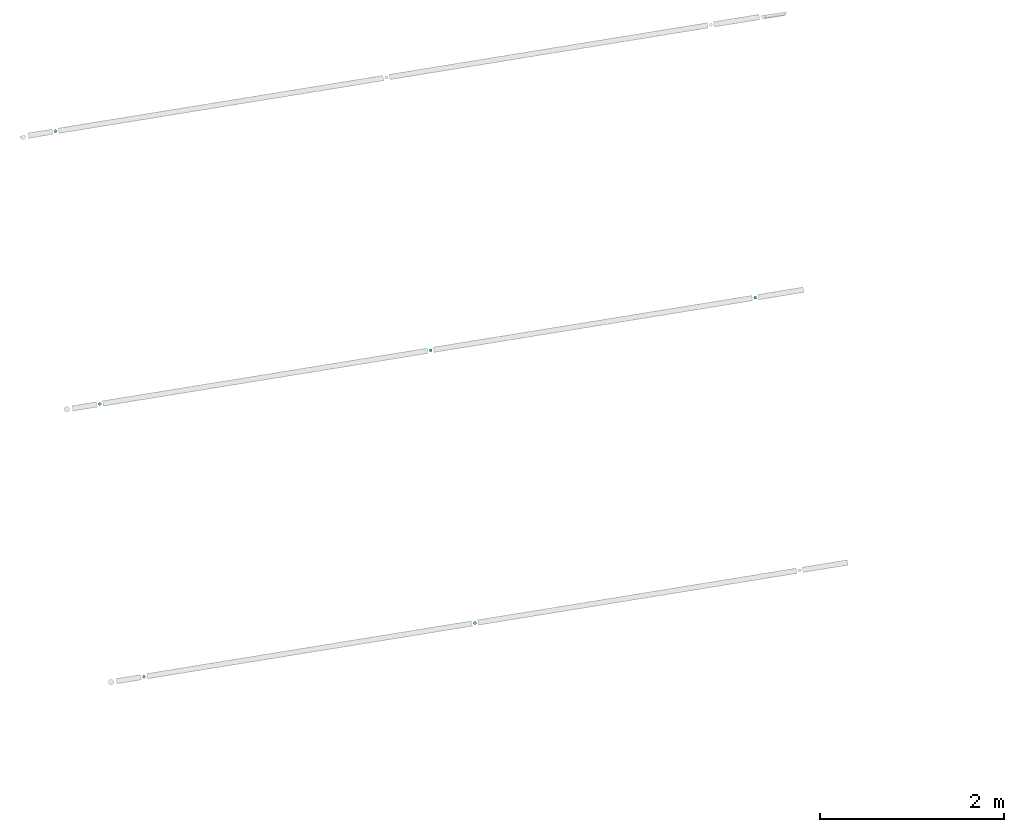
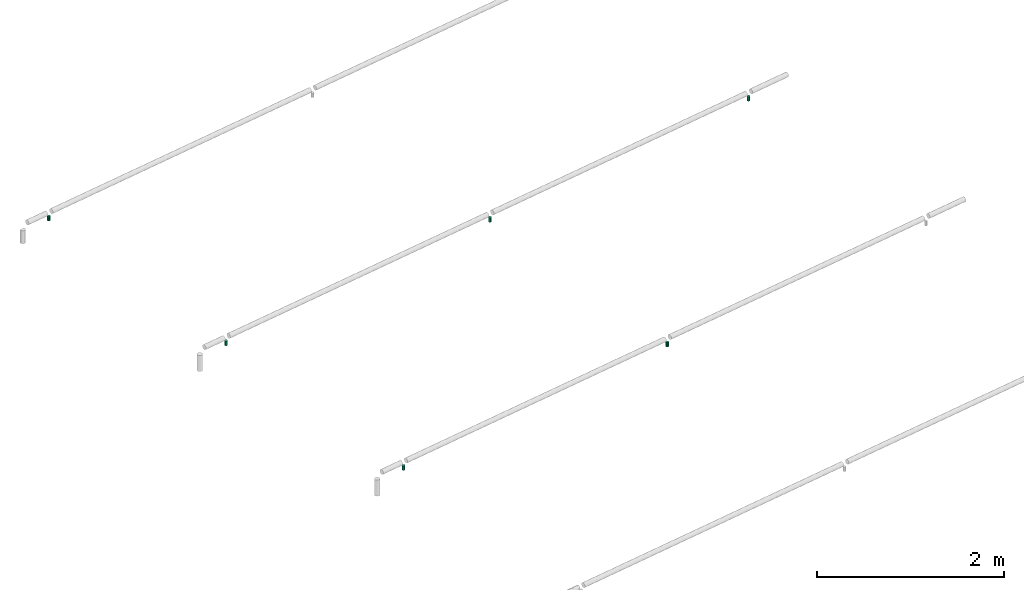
# One storey, part 7 of 10: 6 flow segments.
"""IFC2X3 building model written with IfcOpenShell, lengths in millimetres."""

from ifc_helpers import new_model, entity, si_unit, converted_unit, derived_unit, direction, frame, origin, origin_with_axes, origin_2d_with_axis, place, context, subcontext, project, spatial, circle, extrude, type_object, element, save


model = new_model("IFC2X3")

# Units and contexts
plan_context = context("Plan", 3, precision=1e-05, world=origin_with_axes())
model_context = context("Model", 3, precision=0.01, world=origin(), true_north=direction((6.12323399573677e-17, 1.0)))
body_context = subcontext(model_context, "Body", "Model", "MODEL_VIEW")
ifc_project = project(units=[converted_unit("PLANEANGLEUNIT", "DEGREE", entity("IfcPositiveLengthMeasure", 0.0174532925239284), si_unit("PLANEANGLEUNIT", "RADIAN"), dimensions=[0, 0, 0, 0, 0, 0, 0]), si_unit("AREAUNIT", "SQUARE_METRE"), si_unit("LENGTHUNIT", "METRE", prefix="MILLI"), si_unit("MASSUNIT", "GRAM", prefix="KILO"), si_unit("POWERUNIT", "WATT"), si_unit("PRESSUREUNIT", "PASCAL", prefix="KILO"), si_unit("FORCEUNIT", "NEWTON", prefix="KILO"), si_unit("ELECTRICVOLTAGEUNIT", "VOLT"), si_unit("ELECTRICCURRENTUNIT", "AMPERE"), si_unit("THERMODYNAMICTEMPERATUREUNIT", "DEGREE_CELSIUS"), si_unit("TIMEUNIT", "SECOND"), si_unit("VOLUMEUNIT", "CUBIC_METRE"), derived_unit("LINEARVELOCITYUNIT", [(si_unit("LENGTHUNIT", "METRE"), 1), (si_unit("TIMEUNIT", "SECOND"), -1)]), derived_unit("VOLUMETRICFLOWRATEUNIT", [(si_unit("VOLUMEUNIT", "CUBIC_METRE"), 1), (si_unit("TIMEUNIT", "SECOND"), -1)]), derived_unit("THERMALTRANSMITTANCEUNIT", [(si_unit("POWERUNIT", "WATT"), 1), (si_unit("THERMODYNAMICTEMPERATUREUNIT", "KELVIN"), -1), (si_unit("AREAUNIT", "SQUARE_METRE"), -1)]), derived_unit("SOUNDPRESSUREUNIT", [(si_unit("PRESSUREUNIT", "PASCAL"), 1)])], contexts=[model_context, plan_context])

# Site, building, storey
site_placement = place(None, frame((-0.00071070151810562, 0.00438415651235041, 0.0), z_axis=(0.0, 0.0, 1.0), x_axis=(-0.160236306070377, 0.987078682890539, 0.0)))
site = spatial("IfcSite", under=ifc_project, at=site_placement, Name="Default", CompositionType="ELEMENT")
building_placement = place(site_placement, origin_with_axes())
building = spatial("IfcBuilding", under=site, at=building_placement, CompositionType="ELEMENT")
storey_placement = place(building_placement, frame((0.0, 0.0, 55630.0), z_axis=(0.0, 0.0, 1.0), x_axis=(1.0, 0.0, 0.0)))
storey = spatial("IfcBuildingStorey", under=building, at=storey_placement, Name="Nivå E", CompositionType="ELEMENT", Elevation=55630.0)

# Flow segments
pipe_segment_type = type_object("IfcPipeSegmentType", Name="Pipe Types:Stålrør normaltykke", PredefinedType="NOTDEFINED")
flow_segment_1_placement = place(storey_placement, origin_with_axes())
element("IfcFlowSegment", 1, at=flow_segment_1_placement, inside=storey, type_object=pipe_segment_type, Name="Pipe Types:Stålrør normaltykke", ObjectType="Pipe Types:Stålrør normaltykke", context=body_context, shape_type="SweptSolid", body=[
    extrude(circle(Radius=16.8500004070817, at=origin_2d_with_axis()), frame((781377.619644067, -505108.477242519, 2496.95200000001)), (0.0, 0.0, 1.0), 57.7479999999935),
])
flow_segment_2_placement = place(storey_placement, origin_with_axes())
element("IfcFlowSegment", 2, at=flow_segment_2_placement, inside=storey, type_object=pipe_segment_type, Name="Pipe Types:Stålrør normaltykke", ObjectType="Pipe Types:Stålrør normaltykke", context=body_context, shape_type="SweptSolid", body=[
    extrude(circle(Radius=16.8500004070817, at=origin_2d_with_axis()), frame((781377.619644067, -501468.477242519, 2496.95200000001)), (0.0, 0.0, 1.0), 57.7479999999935),
])
flow_segment_3_placement = place(storey_placement, origin_with_axes())
element("IfcFlowSegment", 3, at=flow_segment_3_placement, inside=storey, type_object=pipe_segment_type, Name="Pipe Types:Stålrør normaltykke", ObjectType="Pipe Types:Stålrør normaltykke", context=body_context, shape_type="SweptSolid", body=[
    extrude(circle(Radius=16.8500004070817, at=origin_2d_with_axis()), frame((784377.619644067, -508678.477242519, 2496.95200000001)), (0.0, 0.0, 1.0), 57.7479999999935),
])
flow_segment_4_placement = place(storey_placement, origin_with_axes())
element("IfcFlowSegment", 4, at=flow_segment_4_placement, inside=storey, type_object=pipe_segment_type, Name="Pipe Types:Stålrør normaltykke", ObjectType="Pipe Types:Stålrør normaltykke", context=body_context, shape_type="SweptSolid", body=[
    extrude(circle(Radius=16.8500004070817, at=origin_2d_with_axis()), frame((784377.619644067, -505108.477242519, 2496.95200000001)), (0.0, 0.0, 1.0), 57.7479999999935),
])
flow_segment_5_placement = place(storey_placement, origin_with_axes())
element("IfcFlowSegment", 5, at=flow_segment_5_placement, inside=storey, type_object=pipe_segment_type, Name="Pipe Types:Stålrør normaltykke", ObjectType="Pipe Types:Stålrør normaltykke", context=body_context, shape_type="SweptSolid", body=[
    extrude(circle(Radius=16.8500004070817, at=origin_2d_with_axis()), frame((784377.619644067, -501468.477242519, 2496.95200000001)), (0.0, 0.0, 1.0), 57.7479999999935),
])
flow_segment_6_placement = place(storey_placement, origin_with_axes())
element("IfcFlowSegment", 6, at=flow_segment_6_placement, inside=storey, type_object=pipe_segment_type, Name="Pipe Types:Stålrør normaltykke", ObjectType="Pipe Types:Stålrør normaltykke", context=body_context, shape_type="SweptSolid", body=[
    extrude(circle(Radius=16.8500004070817, at=origin_2d_with_axis()), frame((787377.619644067, -501468.477242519, 2496.95200000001)), (0.0, 0.0, 1.0), 57.7479999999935),
])

save(model, "model.ifc")
